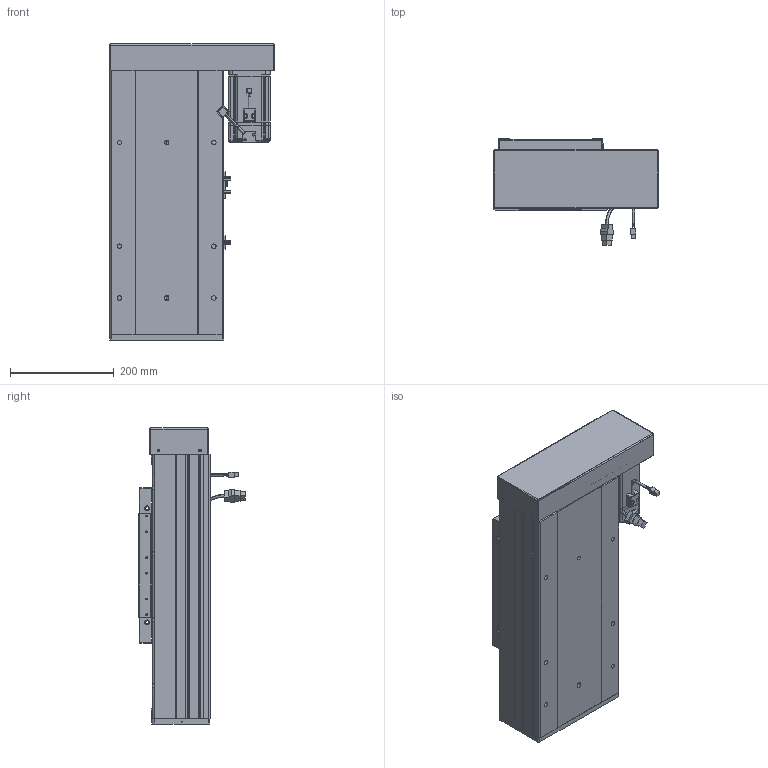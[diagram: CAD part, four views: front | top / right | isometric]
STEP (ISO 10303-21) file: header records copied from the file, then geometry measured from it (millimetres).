
FILE_DESCRIPTION (( 'STEP AP203' ), '1' );
FILE_NAME ('RY220F-L2525-300-RK.SLDASM_100.step', '2022-07-04T01:34:37', ( '' ), ( '' ), 'SwSTEP 2.0', 'SolidWorks 2016', '' );
FILE_SCHEMA (( 'CONFIG_CONTROL_DESIGN' ));
Length unit declared in the file: millimetre
Products named in the file (15): 覜茼ん672; 侐源滅袉蝶; RY220F臏賑釱25-32佪裝; 滅袉蝶18-24; RY220F綴裔啣; RY220酘衵殏萇儂欶; RY220F-詩湍揤踡輸; RY220F-蛌殏奻裔啣-300_100; RY220左右折电机安装板; RY220F-L2525-300-RK.SLDASM_100; RY220F蛌殏菁釱-300_100; 怢湛750W_ECMA-CX0807ES; RY220F-672覜茼んえ; RY220F-滅鳥奻裔; RY220F-祥凄詩湍-蛌殏-300_100
Assembly tree (21 placements, depth 2):
  RY220F-L2525-300-RK.SLDASM_100
    RY220F蛌殏菁釱-300_100
    RY220F-蛌殏奻裔啣-300_100  x2
    怢湛750W_ECMA-CX0807ES
    RY220F臏賑釱25-32佪裝
    RY220F-滅鳥奻裔
    滅袉蝶18-24  x3
    RY220F綴裔啣
    RY220F-祥凄詩湍-蛌殏-300_100
    RY220F-詩湍揤踡輸  x2
    覜茼ん672  x3
    RY220F-672覜茼んえ
    RY220左右折电机安装板
    RY220酘衵殏萇儂欶
    侐源滅袉蝶  x2
Bounding box: 317.5 x 205.27 x 571 mm (x, y, z)
Volume: 6705762.8 mm3; surface area: 1729897.4 mm2
Topology: 22 solids, 22 shells, 2082 faces, 5692 edges, 3600 vertices
Faces by surface type: cylinder 916, plane 888, cone 211, bspline 41, sphere 16, torus 10
Entity records: 63796 total; most frequent: CARTESIAN_POINT 17860, ORIENTED_EDGE 9366, DIRECTION 8906, EDGE_CURVE 4683, AXIS2_PLACEMENT_3D 3123, VERTEX_POINT 3042, VECTOR 2660, LINE 2660
